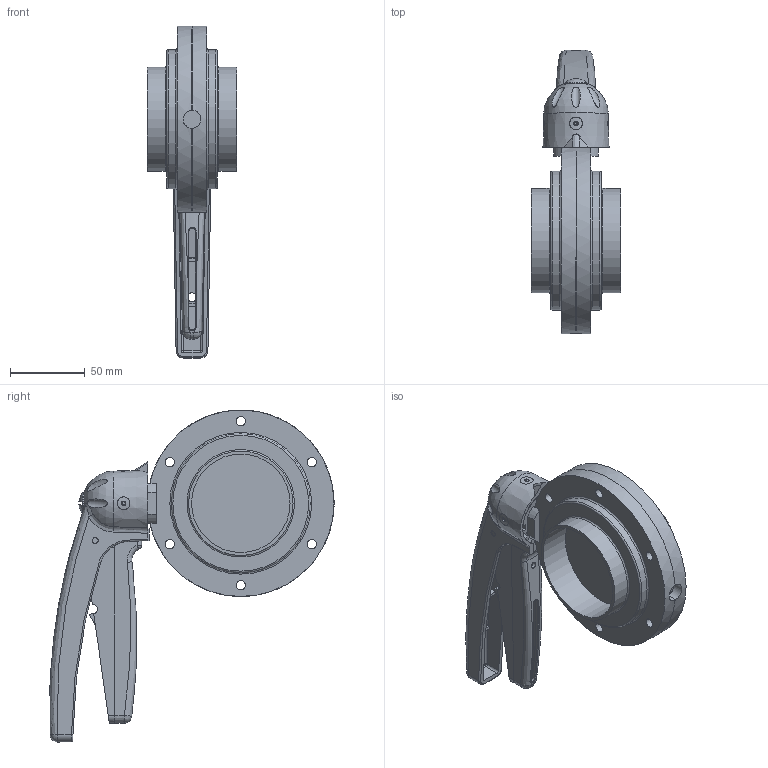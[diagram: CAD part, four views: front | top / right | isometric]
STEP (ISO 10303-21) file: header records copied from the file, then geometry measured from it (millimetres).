
FILE_DESCRIPTION(/* description */ ('VVF VALV.FARF.DN 70X2 SS EPDM 316 LEVA 5POS.'),/* implementation_level */ '2;1');
FILE_NAME(/* name */ 'C:\_DED_PWS\MARZ-M\DB\B\EBA\BEBACG065BEAA-00^SAGOMA.step',/* time_stamp */ '2020-03-26T09:39:09+01:00',/* author */ (''),/* organization */ (''),/* preprocessor_version */ 'ST-DEVELOPER v18',/* originating_system */ 'Autodesk Inventor 2020',/* authorisation */ '');
FILE_SCHEMA (('CONFIG_CONTROL_DESIGN'));
Length unit declared in the file: millimetre
Products named in the file (3): BEBACG065BEAA; Maniglia-5-posizioni-nuova-versione finale 01-2008- 25 - - 65; TWD006065BBA
Assembly tree (3 placements, depth 2):
  BEBACG065BEAA
    TWD006065BBA  x2
    Maniglia-5-posizioni-nuova-versione finale 01-2008- 25 - - 65
Bounding box: 60 x 190.39 x 222.5 mm (x, y, z)
Volume: 413460.6 mm3; surface area: 134270.4 mm2
Topology: 3 solids, 4 shells, 452 faces, 1219 edges, 792 vertices
Faces by surface type: plane 200, cylinder 108, bspline 81, cone 28, sphere 20, torus 15
Full cylindrical faces by diameter (mm): 4 x3, 6 x2, 6.2 x12, 6.5 x1, 13 x1, 14.5 x3, 66 x2, 70 x2, 93 x2, 125 x2
Entity records: 22773 total; most frequent: CARTESIAN_POINT 12103, ORIENTED_EDGE 2286, DIRECTION 1945, EDGE_CURVE 1143, VERTEX_POINT 737, AXIS2_PLACEMENT_3D 704, LINE 537, VECTOR 537
